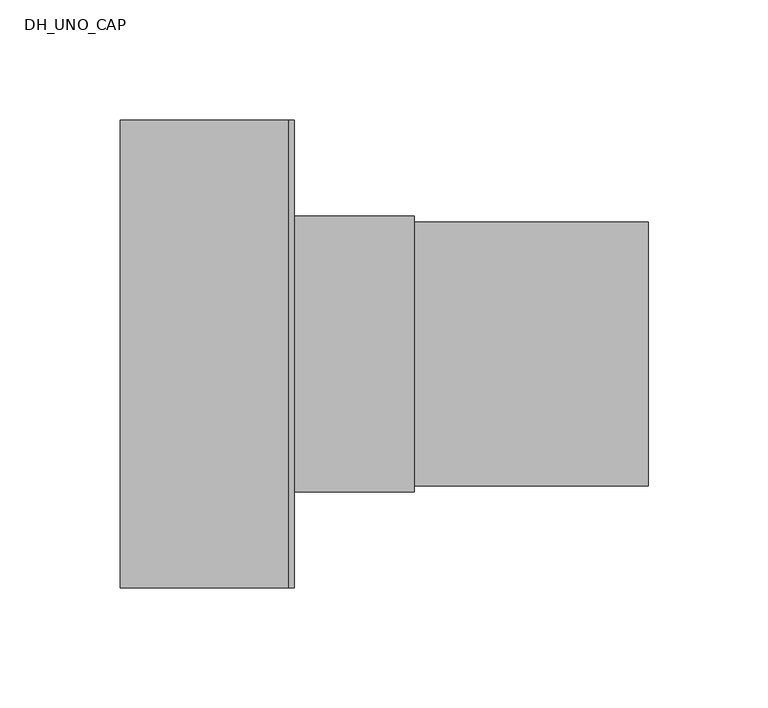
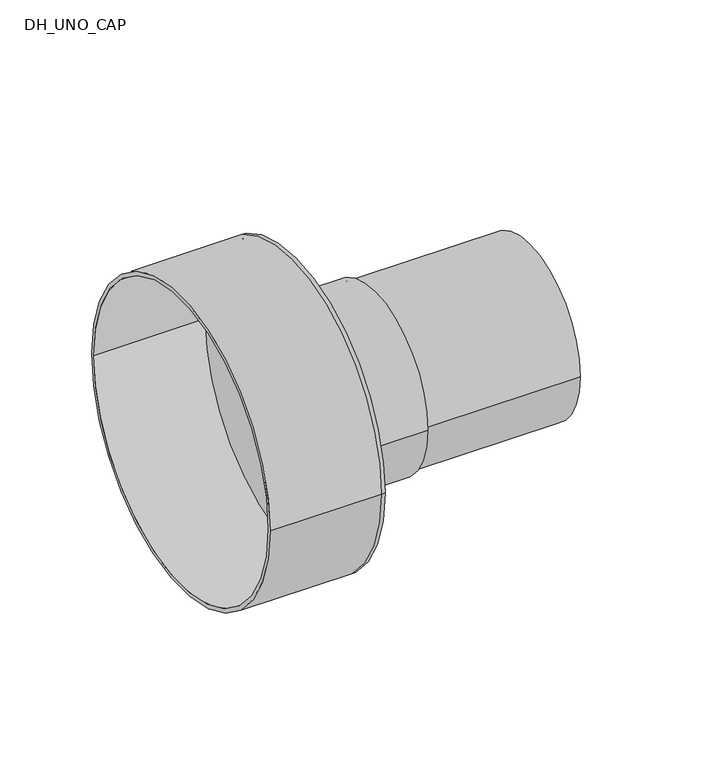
"""IFC4 building model written with IfcOpenShell, lengths in millimetres: pipe fitting geometry, DH_UNO_CAP : RAUVITHERM UNO 11 Heating - Rubber Cap."""

from ifc_helpers import new_model, si_unit, point, frame, origin, origin_2d, place, context, project, spatial, polyline, circle_curve, trimmed, segment, composite_curve, outline, extrude, source, transform, mapped, element, save
from ifc_brep_helpers import plane_surface, cylinder_surface, revolved_surface, advanced_brep


def dh_uno_cap_3a5f6496(model_context):
    return source(origin(), model_context, "Body", "SolidModel", [
        extrude(outline(composite_curve([segment(trimmed(circle_curve(origin_2d(), 55.0), [point((-55.0, 0.0))], [point((55.0, 0.0))], False, "CARTESIAN"), True, "CONTINUOUS"), segment(trimmed(circle_curve(origin_2d(), 55.0), [point((55.0, 0.0))], [point((-55.0, 0.0))], False, "CARTESIAN"), True, "CONTINUOUS")], self_intersect=False), holes=[composite_curve([segment(trimmed(circle_curve(origin_2d(), 45.0), [point((-45.0, 0.0))], [point((45.0, 0.0))], True, "CARTESIAN"), True, "CONTINUOUS"), segment(trimmed(circle_curve(origin_2d(), 45.0), [point((45.0, 0.0))], [point((-45.0, 0.0))], True, "CARTESIAN"), True, "CONTINUOUS")], self_intersect=False)]), frame((0.0, 0.0, 0.0), z_axis=(1.0, 0.0, 0.0), x_axis=(0.0, 1.0, 0.0)), (0.0, 0.0, 1.0), 150.0),
        advanced_brep(
        [(-70.0, -97.5, 0.0), (-70.0, 97.5, 0.0), (-70.0, -95.0, 0.0), (-70.0, 95.0, 0.0), (0.0, -95.0, 0.0), (0.0, 95.0, 0.0), (0.0, -97.5, 0.0), (0.0, 97.5, 0.0), (0.0, 55.0, 0.0), (0.0, -55.0, 0.0), (2.5, -97.5, 0.0), (2.5, 97.5, 0.0), (2.5, -55.0, 0.0), (2.5, 55.0, 0.0)],
        [
            (0, 1, circle_curve(frame((-70.0, 0.0, 0.0), z_axis=(-1.0, 0.0, 0.0), x_axis=(0.0, 1.0, 0.0)), 97.5)),
            (1, 0, circle_curve(frame((-70.0, 0.0, 0.0), z_axis=(-1.0, 0.0, 0.0), x_axis=(0.0, 1.0, 0.0)), 97.5)),
            (2, 3, circle_curve(frame((-70.0, 0.0, 0.0), z_axis=(1.0, 0.0, 0.0), x_axis=(0.0, 1.0, 0.0)), 95.0)),
            (3, 2, circle_curve(frame((-70.0, 0.0, 0.0), z_axis=(1.0, 0.0, 0.0), x_axis=(0.0, 1.0, 0.0)), 95.0)),
            (2, 4),
            (4, 5, circle_curve(frame((0.0, 0.0, 0.0), z_axis=(1.0, 0.0, 0.0), x_axis=(0.0, 1.0, 0.0)), 95.0)),
            (5, 3),
            (5, 4, circle_curve(frame((0.0, 0.0, 0.0), z_axis=(1.0, 0.0, 0.0), x_axis=(0.0, 1.0, 0.0)), 95.0)),
            (0, 6),
            (6, 7, circle_curve(frame((0.0, 0.0, 0.0), z_axis=(-1.0, 0.0, 0.0), x_axis=(0.0, 1.0, 0.0)), 97.5)),
            (7, 1),
            (7, 6, circle_curve(frame((0.0, 0.0, 0.0), z_axis=(-1.0, 0.0, 0.0), x_axis=(0.0, 1.0, 0.0)), 97.5)),
            (8, 9, circle_curve(frame((0.0, 0.0, 0.0), z_axis=(1.0, 0.0, 0.0), x_axis=(0.0, 1.0, 0.0)), 55.0)),
            (9, 8, circle_curve(frame((0.0, 0.0, 0.0), z_axis=(1.0, 0.0, 0.0), x_axis=(0.0, 1.0, 0.0)), 55.0)),
            (10, 11, circle_curve(frame((2.5, 0.0, 0.0), z_axis=(1.0, 0.0, 0.0), x_axis=(0.0, 1.0, 0.0)), 97.5)),
            (11, 10, circle_curve(frame((2.5, 0.0, 0.0), z_axis=(1.0, 0.0, 0.0), x_axis=(0.0, 1.0, 0.0)), 97.5)),
            (12, 13, circle_curve(frame((2.5, 0.0, 0.0), z_axis=(-1.0, 0.0, 0.0), x_axis=(0.0, 1.0, 0.0)), 55.0)),
            (13, 12, circle_curve(frame((2.5, 0.0, 0.0), z_axis=(-1.0, 0.0, 0.0), x_axis=(0.0, 1.0, 0.0)), 55.0)),
            (11, 7),
            (6, 10),
            (8, 13),
            (12, 9),
        ],
        [
            plane_surface(frame((-70.0, 0.0, 0.0), z_axis=(-1.0, 0.0, 0.0), x_axis=(0.0, 0.0, 1.0))),
            revolved_surface(polyline([(0.0, 95.0, 0.0), (-70.0, 95.0, 0.0)]), (-70.0, 0.0, 0.0), (1.0, 0.0, 0.0)),
            cylinder_surface(frame((-70.0, 0.0, 0.0), z_axis=(-1.0, 0.0, 0.0), x_axis=(0.0, 1.0, 0.0)), 97.5),
            plane_surface(frame((0.0, 0.0, 0.0), z_axis=(-1.0, 0.0, 0.0), x_axis=(0.0, 0.0, 1.0))),
            plane_surface(frame((2.5, 0.0, 0.0), z_axis=(1.0, 0.0, 0.0), x_axis=(0.0, 0.0, 1.0))),
            cylinder_surface(frame((0.0, 0.0, 0.0), z_axis=(-1.0, 0.0, 0.0), x_axis=(0.0, 1.0, 0.0)), 97.5),
            revolved_surface(polyline([(0.0, 55.0, 0.0), (2.5, 55.0, 0.0)]), (0.0, 0.0, 0.0), (-1.0, 0.0, 0.0)),
        ],
        [
            (0, [[1, 2], [3, 4]]),
            (1, [[-3, 5, 6, 7]]),
            (1, [[-4, -7, 8, -5]]),
            (2, [[-1, 9, 10, 11]]),
            (2, [[-2, -11, 12, -9]]),
            (3, [[-6, -8], [13, 14]]),
            (4, [[15, 16], [17, 18]]),
            (5, [[-16, 19, -10, 20]]),
            (5, [[-15, -20, -12, -19]]),
            (6, [[21, -17, 22, -13]]),
            (6, [[-21, -14, -22, -18]]),
        ],
    ),
        extrude(outline(composite_curve([segment(trimmed(circle_curve(origin_2d(), 57.5), [point((-57.5, 0.0))], [point((57.5, 0.0))], False, "CARTESIAN"), True, "CONTINUOUS"), segment(trimmed(circle_curve(origin_2d(), 57.5), [point((57.5, 0.0))], [point((-57.5, 0.0))], False, "CARTESIAN"), True, "CONTINUOUS")], self_intersect=False), holes=[composite_curve([segment(trimmed(circle_curve(origin_2d(), 55.0), [point((-55.0, 0.0))], [point((55.0, 0.0))], True, "CARTESIAN"), True, "CONTINUOUS"), segment(trimmed(circle_curve(origin_2d(), 55.0), [point((55.0, 0.0))], [point((-55.0, 0.0))], True, "CARTESIAN"), True, "CONTINUOUS")], self_intersect=False)]), frame((2.5, 0.0, 0.0), z_axis=(1.0, 0.0, 0.0), x_axis=(0.0, 1.0, 0.0)), (0.0, 0.0, 1.0), 50.0),
    ])


if __name__ == "__main__":
    model = new_model("IFC4")
    model_context = context("Model", 3, world=origin())
    ifc_project = project(units=[si_unit("LENGTHUNIT", "METRE", prefix="MILLI")], contexts=[model_context])
    site = spatial("IfcSite", under=ifc_project)
    building = spatial("IfcBuilding", under=site)
    placement = place(None, origin())
    dh_uno_cap_shape = dh_uno_cap_3a5f6496(model_context)
    element("IfcPipeFitting", 1, ObjectType="DH_UNO_CAP : RAUVITHERM UNO 11 Heating - Rubber Cap", at=placement, inside=building, context=model_context, shape_type="MappedRepresentation", body=[
        mapped(dh_uno_cap_shape, transform((0.0, 0.0, 0.0), x_axis=(1.0, 0.0, 0.0), y_axis=(0.0, 1.0, 0.0), z_axis=(0.0, 0.0, 1.0))),
    ])
    save(model, "model.ifc")
